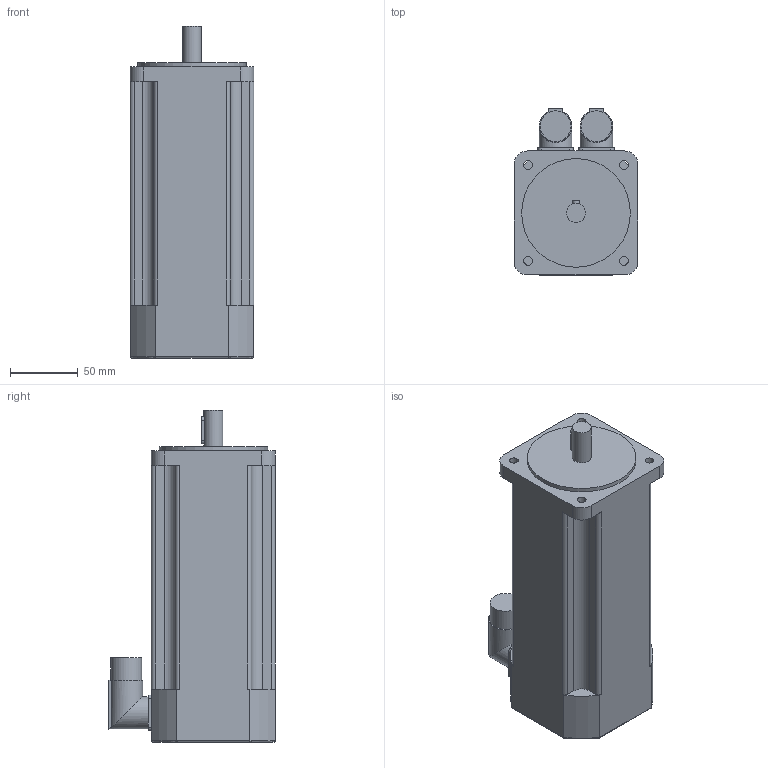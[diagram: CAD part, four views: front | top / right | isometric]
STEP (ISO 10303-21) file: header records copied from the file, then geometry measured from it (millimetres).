
FILE_DESCRIPTION(/* description */ (''),/* implementation_level */ '2;1');
FILE_NAME(/* name */ '\\Lafnas01\disegni\Archivi Lafert\3D\CAD 3D\MODELLI\Assiemi clienti\Serad\Modelli 3D Serad\B56Q\Resolver\Res With Brake\B56H5Qxx6B052033.ipt.stp',/* time_stamp */ '2015-09-07T10:50:19+02:00',/* author */ ('Pastrello Ylenia'),/* organization */ (''),/* preprocessor_version */ 'ST-DEVELOPER v15.6',/* originating_system */ 'Autodesk Inventor 2015',/* authorisation */ '');
FILE_SCHEMA (('AUTOMOTIVE_DESIGN { 1 0 10303 214 3 1 1 }'));
Length unit declared in the file: millimetre
Products named in the file (1): B56H5Qxx6B052033
Bounding box: 91.3 x 122.8 x 244.5 mm (x, y, z)
Volume: 1640882.8 mm3; surface area: 101979.2 mm2
Topology: 1 solids, 1 shells, 99 faces, 260 edges, 170 vertices
Faces by surface type: plane 49, cylinder 46, torus 4
Full cylindrical faces by diameter (mm): 6.5 x4, 14 x1, 22.7 x2, 24 x2, 80 x1
Entity records: 3176 total; most frequent: CARTESIAN_POINT 658, DIRECTION 534, ORIENTED_EDGE 500, EDGE_CURVE 250, AXIS2_PLACEMENT_3D 194, VERTEX_POINT 170, LINE 146, VECTOR 146
